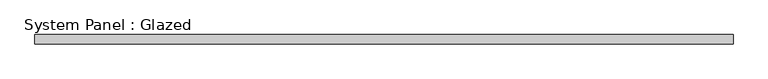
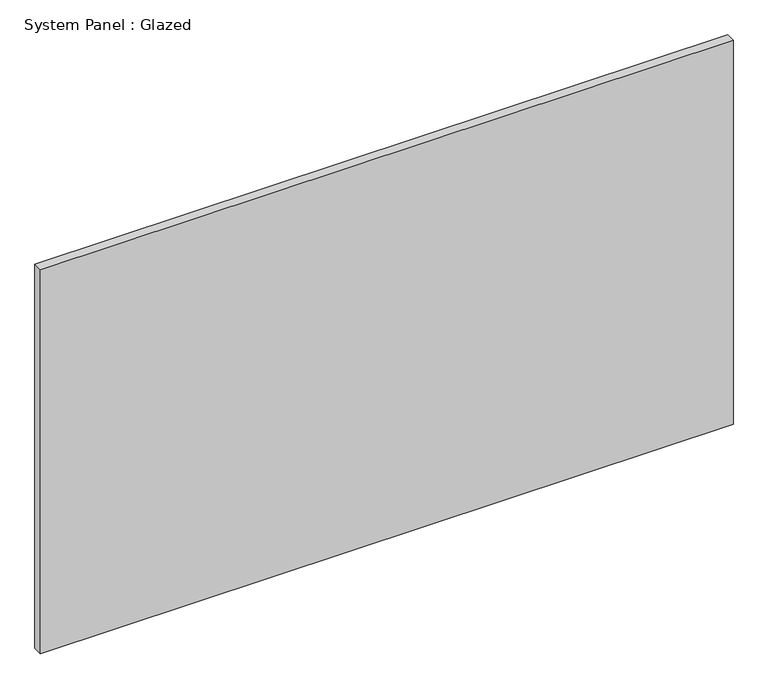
"""IFC4 building model written with IfcOpenShell, lengths in millimetres: plate geometry, System Panel : Glazed."""

from ifc_helpers import new_model, si_unit, origin, origin_with_axes, place, context, project, spatial, polyline, outline, extrude, source, transform, mapped, element, save


def system_panel_glazed_6afda307(model_context):
    return source(origin(), model_context, "Body", "SweptSolid", [
        extrude(outline(polyline([(958.85, -44.45), (-958.85, -44.45), (-958.85, -19.05), (958.85, -19.05), (958.85, -44.45)])), origin_with_axes(), (0.0, 0.0, 1.0), 1123.95),
    ])


if __name__ == "__main__":
    model = new_model("IFC4")
    model_context = context("Model", 3, world=origin())
    ifc_project = project(units=[si_unit("LENGTHUNIT", "METRE", prefix="MILLI")], contexts=[model_context])
    site = spatial("IfcSite", under=ifc_project)
    building = spatial("IfcBuilding", under=site)
    placement = place(None, origin())
    system_panel_glazed_shape = system_panel_glazed_6afda307(model_context)
    element("IfcPlate", 1, ObjectType="System Panel : Glazed", at=placement, inside=building, context=model_context, shape_type="MappedRepresentation", body=[
        mapped(system_panel_glazed_shape, transform((0.0, 0.0, 0.0), x_axis=(1.0, 0.0, 0.0), y_axis=(0.0, 1.0, 0.0), z_axis=(0.0, 0.0, 1.0))),
    ])
    save(model, "model.ifc")
